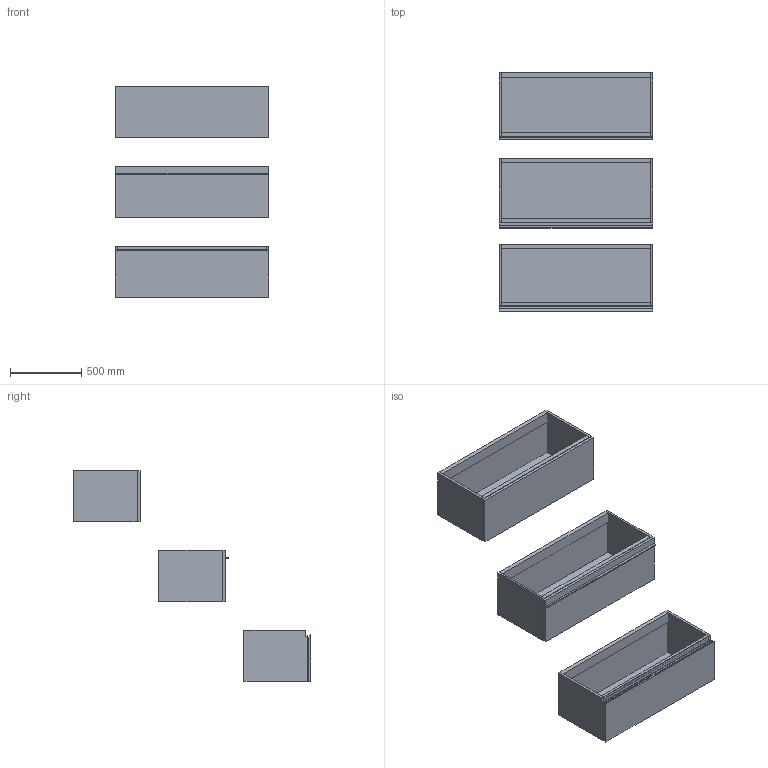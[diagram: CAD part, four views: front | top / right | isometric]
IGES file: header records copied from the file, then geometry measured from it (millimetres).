
Start section: Data from Parasolid IGES Translator 19.0.9, Copyright(c) 2006 Siemens PL M Software. All Rights Reserved.
Global section: file name: noorth-SI-H 36 D 47 W 108_8346.igs; native system: By Siemens PLM Incorporated; preprocessor: XPlus GENERIC/IGES 19.0.9; author: Noname; organization: Noname; date: 20200601.093133; units: metre
Bounding box: 1080 x 1669.1 x 1480.01 mm (x, y, z)
Volume: 71593131.5 mm3; surface area: 10722482.5 mm2
Topology: 23 solids, 23 shells, 196 faces, 418 edges, 258 vertices
Faces by surface type: plane 152, extrusion 16, bspline 16, cylinder 12
